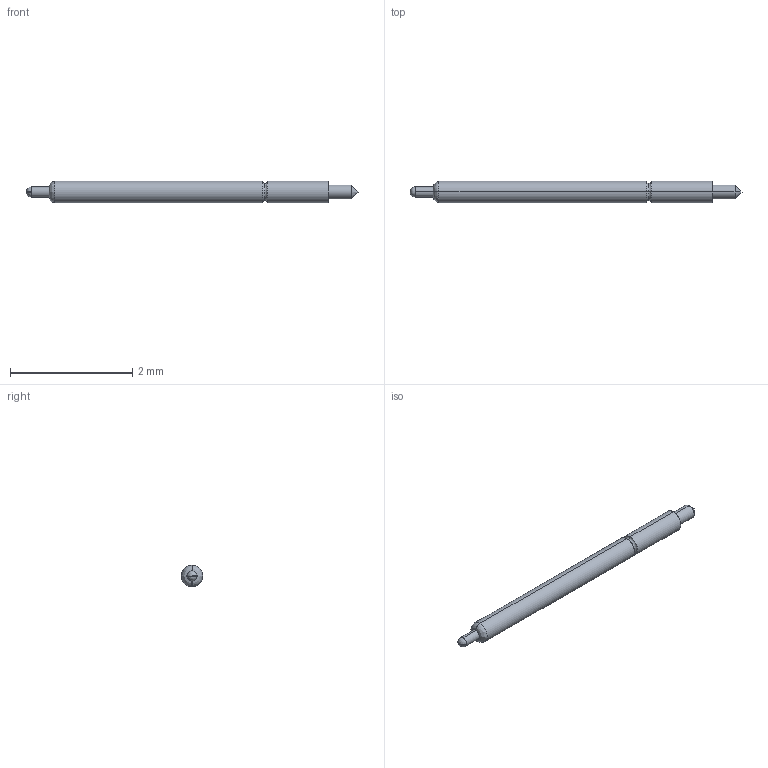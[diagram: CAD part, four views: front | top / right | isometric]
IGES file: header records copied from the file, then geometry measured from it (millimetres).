
Start section: SolidWorks IGES file using analytic representation for surfaces
Global section: file name: Z:\probe solid model mockups\Solidworks models\IGES Files\CSP5-18 IGES files\CSP5-18BJ RECD.IGS; native system: SolidWorks 2006 by SolidWorks Corporation; preprocessor: SolidWorks 2006 by SolidWorks Corporation; author: tsakatani; date: 080108.142054; units: inch
Bounding box: 5.44 x 0.35 x 0.35 mm (x, y, z)
Surface area: 5.7 mm2 (no closed solid volume)
Topology: 0 solids, 0 shells, 19 faces, 108 edges, 104 vertices
Faces by surface type: revolution 12, bspline 7
